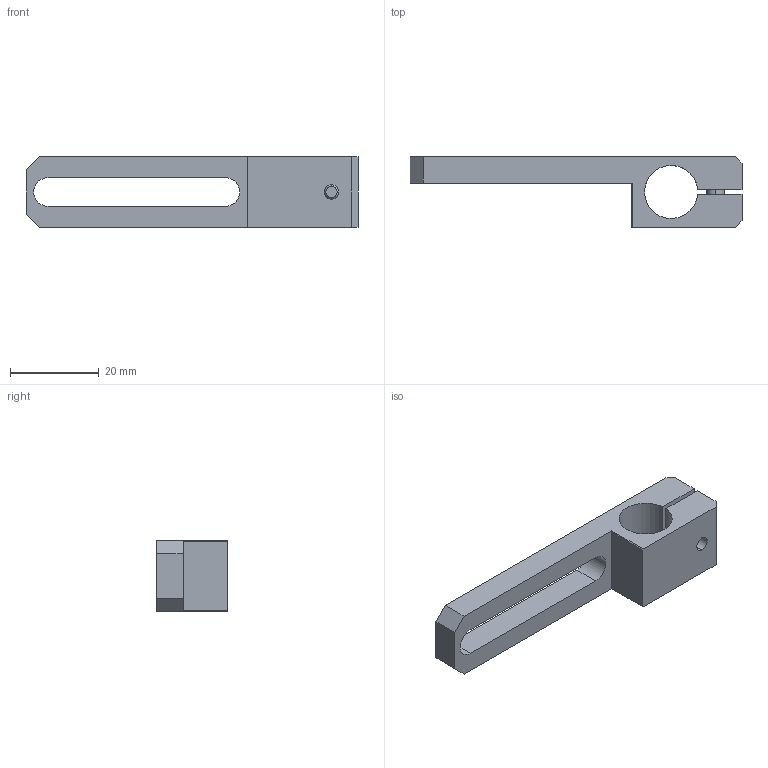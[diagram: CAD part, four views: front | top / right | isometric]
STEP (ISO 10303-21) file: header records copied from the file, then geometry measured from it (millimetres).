
FILE_DESCRIPTION (( 'STEP AP214' ), '1' );
FILE_NAME ('SCF5-1240W16T.STEP', '2023-01-17T08:28:28', ( 'Windows User' ), ( 'P R C' ), 'SwSTEP 2.0', 'SolidWorks 2019', '' );
FILE_SCHEMA (( 'AUTOMOTIVE_DESIGN' ));
Length unit declared in the file: millimetre
Products named in the file (1): SCF5-1240W16T
Bounding box: 75 x 16 x 16 mm (x, y, z)
Volume: 7307.7 mm3; surface area: 5472.8 mm2
Topology: 3 solids, 3 shells, 243 faces, 696 edges, 460 vertices
Faces by surface type: plane 222, cylinder 17, torus 2, cone 2
Entity records: 10719 total; most frequent: DIRECTION 1408, CARTESIAN_POINT 1400, ORIENTED_EDGE 1392, EDGE_CURVE 696, LINE 472, VECTOR 472, AXIS2_PLACEMENT_3D 468, VERTEX_POINT 460
